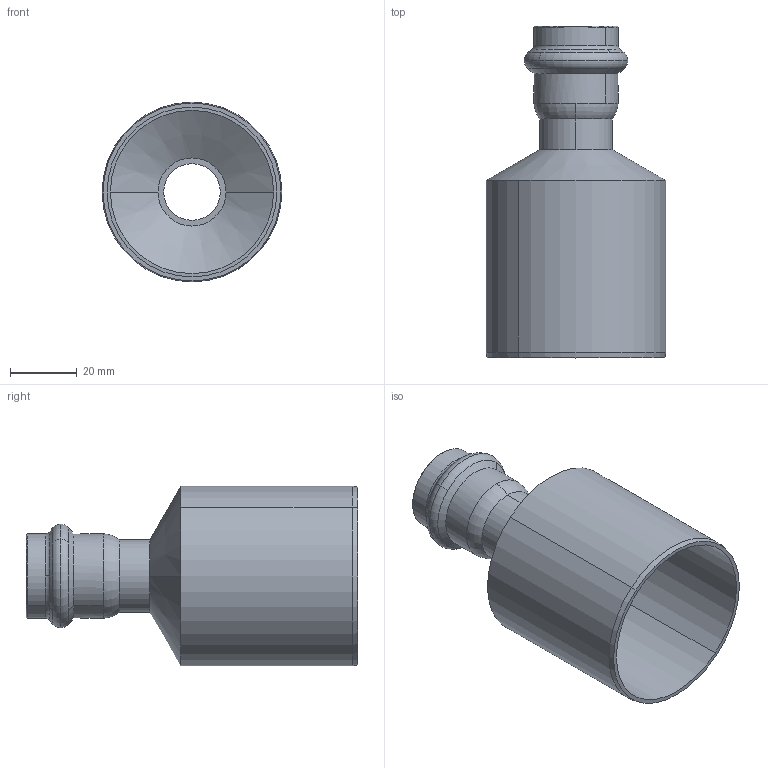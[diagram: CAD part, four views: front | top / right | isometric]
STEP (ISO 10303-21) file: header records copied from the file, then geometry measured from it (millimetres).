
FILE_DESCRIPTION(('CoCreate Modeling STEP Export'),'2;1');
FILE_NAME('8243VW5422.stp','2013-03-05T 9:43:57',(''),(''),'CoCreate Modeling STEP processor for AP214 (Solid Model)','CoCreate Modeling 17.00A 17-Jun-2010 (C) Parametric Technology GmbH','');
FILE_SCHEMA(('AUTOMOTIVE_DESIGN { 1 0 10303 214 1 1 1 1 }'));
Length unit declared in the file: millimetre
Products named in the file (2): 8243VW5422
Assembly tree (1 placements, depth 2):
  8243VW5422
    8243VW5422
Bounding box: 54 x 99.64 x 54 mm (x, y, z)
Volume: 23190 mm3; surface area: 27979.9 mm2
Topology: 1 solids, 1 shells, 60 faces, 153 edges, 101 vertices
Faces by surface type: cylinder 22, cone 16, torus 14, plane 8
Entity records: 1467 total; most frequent: ORIENTED_EDGE 306, CARTESIAN_POINT 222, DIRECTION 204, EDGE_CURVE 153, VERTEX_POINT 101, AXIS2_PLACEMENT_3D 83, EDGE_LOOP 68, FACE_OUTER_BOUND 60
